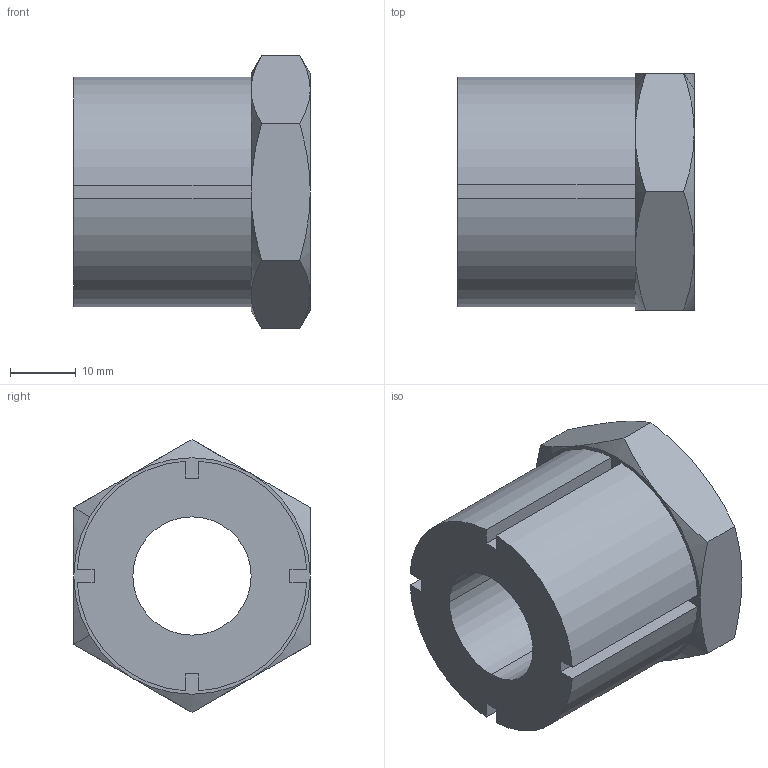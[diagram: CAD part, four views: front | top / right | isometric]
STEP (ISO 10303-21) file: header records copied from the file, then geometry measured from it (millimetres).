
FILE_DESCRIPTION((''),'2;1');
FILE_NAME('C:\WIXROYD\Positioning\3840\3840W018.stp','2003-01-09T15:39:07',('Administrator'),(''),'Autodesk Inventor (tm) 5.0','Autodesk Inventor (tm) 5.0','');
FILE_SCHEMA(('CONFIG_CONTROL_DESIGN'));
Length unit declared in the file: millimetre
Products named in the file (1): 3840W018
Bounding box: 36 x 36 x 41.57 mm (x, y, z)
Volume: 26228.9 mm3; surface area: 8312.2 mm2
Topology: 1 solids, 1 shells, 45 faces, 110 edges, 68 vertices
Faces by surface type: plane 21, cone 16, cylinder 8
Entity records: 1383 total; most frequent: CARTESIAN_POINT 272, ORIENTED_EDGE 220, DIRECTION 210, EDGE_CURVE 110, AXIS2_PLACEMENT_3D 78, VERTEX_POINT 68, VECTOR 54, LINE 54
